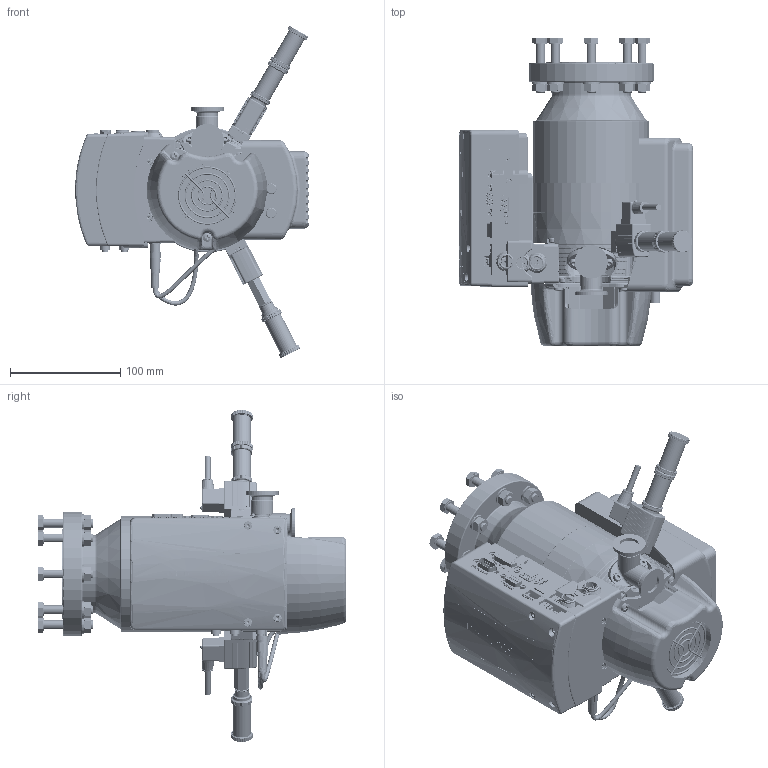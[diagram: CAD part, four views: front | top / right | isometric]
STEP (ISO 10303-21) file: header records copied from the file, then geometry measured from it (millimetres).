
FILE_DESCRIPTION((''),'2;1');
FILE_NAME('300588848_Y09_000_ASM','2016-04-14T',('L0100513'),('Copyright by Leybold GmbH'),'PRO/ENGINEER BY PARAMETRIC TECHNOLOGY CORPORATION, 2015280','PRO/ENGINEER BY PARAMETRIC TECHNOLOGY CORPORATION, 2015280','');
FILE_SCHEMA(('AUTOMOTIVE_DESIGN { 1 0 10303 214 1 1 1 1 }'));
Length unit declared in the file: millimetre
Products named in the file (15): 300588840_Y09_000; 300588634_Y09_000; 300497127_Y09_000; 300497113_Y09_000; 300497112_Y09_000; 300497111_Y09_000; 300398100_Y09_000; 300398112_Y09_000; 300423704_Y09_000; 300423713_Y09_000; 300511582_Y09_000; 300546992_Y09_000; 300588135_Y09_000; 300477286_Y09_000; 300588848_Y09_000_ASM
Assembly tree (19 placements, depth 2):
  300588848_Y09_000_ASM
    300588840_Y09_000
    300588634_Y09_000  x2
    300497127_Y09_000  x2
    300497113_Y09_000
    300497112_Y09_000
    300497111_Y09_000
    300398100_Y09_000  x2
    300398112_Y09_000
    300423704_Y09_000  x3
    300423713_Y09_000
    300511582_Y09_000
    300546992_Y09_000
    300588135_Y09_000
    300477286_Y09_000
Bounding box: 212.25 x 279.88 x 301.43 mm (x, y, z)
Volume: 3920056.8 mm3; surface area: 494447.3 mm2
Topology: 31 solids, 33 shells, 15594 faces, 41061 edges, 26300 vertices
Faces by surface type: plane 9359, cylinder 3296, cone 1651, bspline 567, torus 443, sphere 134, extrusion 128, revolution 16
Entity records: 603208 total; most frequent: CARTESIAN_POINT 162786, ORIENTED_EDGE 73840, DIRECTION 67291, EDGE_CURVE 36923, VECTOR 25258, LINE 25132, VERTEX_POINT 23759, AXIS2_PLACEMENT_3D 21012
